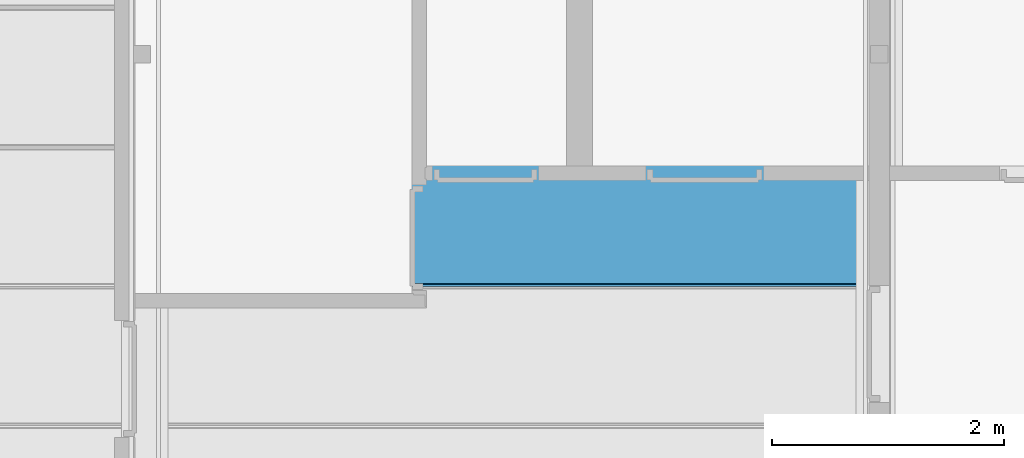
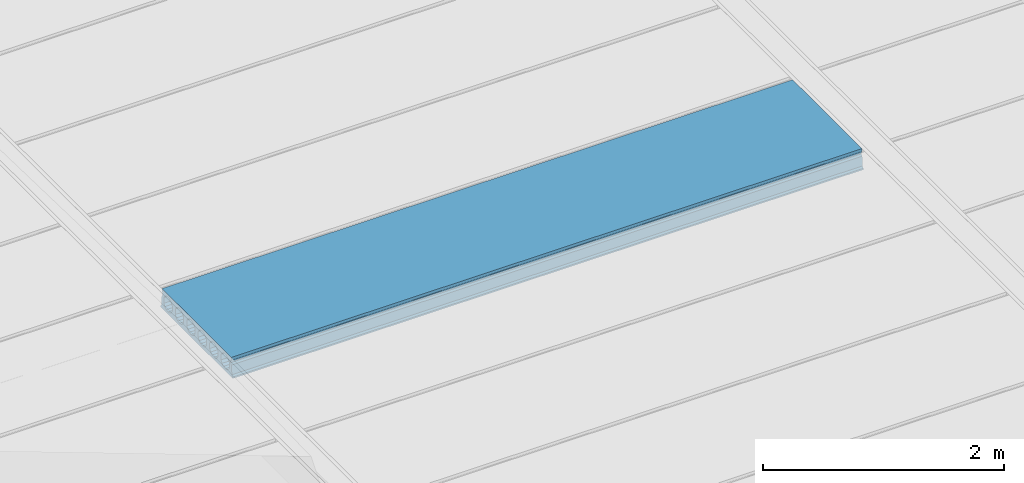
# One storey, part 12 of 45: 1 beam.
"""IFC2X3 building model written with IfcOpenShell, lengths in millimetres."""

from ifc_helpers import new_model, entity, si_unit, converted_unit, frame, origin, place, context, subcontext, project, spatial, faceted_brep, material, element, save


model = new_model("IFC2X3")

# Units and contexts
model_context = context("Model", 3, precision=1e-05, world=origin())
plan_context = context("Plan", 3, precision=1e-05, world=origin())
body_context = subcontext(model_context, "Body", "Model", "MODEL_VIEW")
ifc_project = project(units=[si_unit("LENGTHUNIT", "METRE", prefix="MILLI"), converted_unit("PLANEANGLEUNIT", "DEGREE", entity("IfcPlaneAngleMeasure", 0.0174532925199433), si_unit("PLANEANGLEUNIT", "RADIAN"), dimensions=[0, 0, 0, 0, 0, 0, 0]), si_unit("AREAUNIT", "SQUARE_METRE"), si_unit("VOLUMEUNIT", "CUBIC_METRE")], contexts=[model_context, plan_context])

# Building, storey
building_placement = place(None, origin())
building = spatial("IfcBuilding", under=ifc_project, at=building_placement, Name="HEKF Administrasjonbygg", CompositionType="ELEMENT")
storey_placement = place(building_placement, frame((0.0, 0.0, 6500.0), z_axis=(0.0, 0.0, 1.0), x_axis=(1.0, 0.0, 0.0)))
storey = spatial("IfcBuildingStorey", under=building, at=storey_placement, Name="Plan 1", CompositionType="ELEMENT", Elevation=6500.0)

# Beam
ifc_material = material()
beam_placement = place(storey_placement, frame((0.0, 0.0, -6500.0), z_axis=(0.0, 0.0, 1.0), x_axis=(1.0, 0.0, 0.0)))
element("IfcBeam", 1, at=beam_placement, inside=storey, material=ifc_material, context=body_context, shape_type="Brep", body=[
    faceted_brep([(10135.0, -4799.999999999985, 9684.999999), (10135.0, -4799.999999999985, 9670.0), (16189.99999999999, -4800.0, 9670.000000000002), (16189.99999999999, -4800.0, 9684.999999), (10135.0, -5999.999999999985, 9684.999999), (10135.0, -5999.999999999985, 9670.0), (10135.0, -4799.999999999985, 9670.0), (10135.0, -4799.999999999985, 9684.999999), (10135.0, -4814.99987952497, 9699.999998), (10135.0, -4820.000002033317, 9794.999985), (10135.0, -4835.000003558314, 9809.999985), (10135.0, -4835.000003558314, 9829.999985), (10135.0, -4822.727297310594, 9842.272583), (10135.0, -4824.047732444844, 9870.0), (10135.0, -5975.952372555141, 9870.0), (10135.0, -5977.272729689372, 9842.272735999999), (10135.0, -5965.000000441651, 9829.999985), (10135.0, -5965.000000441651, 9809.999985), (10135.0, -5980.000001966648, 9794.999985), (10135.0, -5984.999999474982, 9699.999998), (10135.0, -5874.999987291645, 9694.999989), (10135.0, -5903.701261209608, 9700.709023), (10135.0, -5928.033020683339, 9716.966995), (10135.0, -5944.290964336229, 9741.298752), (10135.0, -5944.290960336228, 9798.701262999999), (10135.0, -5928.032997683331, 9823.03299), (10135.0, -5903.70124620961, 9839.290955), (10135.0, -5874.999987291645, 9845.0), (10135.0, -5846.298721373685, 9839.290955), (10135.0, -5821.966976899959, 9823.033005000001), (10135.0, -5805.709010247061, 9798.701233), (10135.0, -5805.708980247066, 9741.298767), (10135.0, -5821.966961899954, 9716.966995), (10135.0, -5846.29870537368, 9700.709023), (10135.0, -5684.999967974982, 9694.999989), (10135.0, -5713.701241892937, 9700.709023), (10135.0, -5738.033001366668, 9716.966995), (10135.0, -5754.290945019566, 9741.298752), (10135.0, -5754.290941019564, 9798.701262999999), (10135.0, -5738.032978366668, 9823.03299), (10135.0, -5713.701226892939, 9839.290955), (10135.0, -5684.999967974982, 9845.0), (10135.0, -5656.298702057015, 9839.290955), (10135.0, -5631.966957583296, 9823.033005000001), (10135.0, -5615.708990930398, 9798.701233), (10135.0, -5615.708960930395, 9741.298767), (10135.0, -5631.966942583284, 9716.966995), (10135.0, -5656.298686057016, 9700.709023), (10135.0, -5494.999948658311, 9694.999989), (10135.0, -5523.701222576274, 9700.709023), (10135.0, -5548.032982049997, 9716.966995), (10135.0, -5564.290925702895, 9741.298752), (10135.0, -5564.290921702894, 9798.701262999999), (10135.0, -5548.032959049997, 9823.03299), (10135.0, -5523.701207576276, 9839.290955), (10135.0, -5494.999948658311, 9845.0), (10135.0, -5466.298682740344, 9839.290955), (10135.0, -5441.966938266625, 9823.033005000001), (10135.0, -5425.708971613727, 9798.701233), (10135.0, -5425.708941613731, 9741.298767), (10135.0, -5441.96692326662, 9716.966995), (10135.0, -5466.298666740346, 9700.709023), (10135.0, -5304.99992934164, 9694.999989), (10135.0, -5333.701203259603, 9700.709023), (10135.0, -5358.032962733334, 9716.966995), (10135.0, -5374.290906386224, 9741.298752), (10135.0, -5374.290902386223, 9798.701262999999), (10135.0, -5358.032939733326, 9823.03299), (10135.0, -5333.701188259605, 9839.290955), (10135.0, -5304.99992934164, 9845.0), (10135.0, -5276.29866342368, 9839.290955), (10135.0, -5251.966918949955, 9823.033005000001), (10135.0, -5235.708952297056, 9798.701233), (10135.0, -5235.708922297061, 9741.298767), (10135.0, -5251.96690394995, 9716.966995), (10135.0, -5276.298647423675, 9700.709023), (10135.0, -5114.999910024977, 9694.999989), (10135.0, -5143.701183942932, 9700.709023), (10135.0, -5168.032943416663, 9716.966995), (10135.0, -5184.290887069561, 9741.298752), (10135.0, -5184.29088306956, 9798.701262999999), (10135.0, -5168.032920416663, 9823.03299), (10135.0, -5143.701168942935, 9839.290955), (10135.0, -5114.999910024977, 9845.0), (10135.0, -5086.29864410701, 9839.290955), (10135.0, -5061.966899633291, 9823.033005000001), (10135.0, -5045.708932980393, 9798.701233), (10135.0, -5045.70890298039, 9741.298767), (10135.0, -5061.966884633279, 9716.966995), (10135.0, -5086.298628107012, 9700.709023), (10135.0, -4924.999890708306, 9694.999989), (10135.0, -4953.701164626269, 9700.709023), (10135.0, -4978.032924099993, 9716.966995), (10135.0, -4994.29086775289, 9741.298752), (10135.0, -4994.290863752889, 9798.701262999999), (10135.0, -4978.032901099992, 9823.03299), (10135.0, -4953.701149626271, 9839.290955), (10135.0, -4924.999890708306, 9845.0), (10135.0, -4896.298624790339, 9839.290955), (10135.0, -4871.966880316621, 9823.033005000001), (10135.0, -4855.708913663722, 9798.701233), (10135.0, -4855.708883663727, 9741.298767), (10135.0, -4871.966865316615, 9716.966995), (10135.0, -4896.298608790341, 9700.709023), (16190.0, -6000.0, 9684.999999), (16190.0, -6000.0, 9670.0), (10135.0, -5999.999999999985, 9670.0), (10135.0, -5999.999999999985, 9684.999999), (16189.99999999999, -4800.0, 9684.999999), (16189.99999999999, -4800.0, 9670.000000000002), (16190.0, -6000.0, 9670.0), (16190.0, -6000.0, 9684.999999), (16190.0, -5984.999999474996, 9699.999998), (16190.0, -5980.000001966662, 9794.999985), (16190.0, -5965.000000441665, 9809.999985), (16190.0, -5965.000000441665, 9829.999985), (16190.0, -5977.272729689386, 9842.272735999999), (16190.0, -5975.952372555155, 9870.0), (16190.0, -4824.047732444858, 9870.0), (16190.0, -4822.727297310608, 9842.272583), (16190.0, -4835.000003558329, 9829.999985), (16190.0, -4835.000003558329, 9809.999985), (16190.0, -4820.000002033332, 9794.999985), (16190.0, -4814.999879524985, 9699.999998), (16190.0, -4924.999890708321, 9694.999989), (16190.0, -4896.298608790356, 9700.709023), (16190.0, -4871.96686531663, 9716.966995), (16190.0, -4855.708883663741, 9741.298767), (16190.0, -4855.708913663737, 9798.701233), (16190.0, -4871.966880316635, 9823.033005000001), (16190.0, -4896.298624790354, 9839.290955), (16190.0, -4924.999890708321, 9845.0), (16190.0, -4953.701149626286, 9839.290955), (16190.0, -4978.032901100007, 9823.03299), (16190.0, -4994.290863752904, 9798.701262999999), (16190.0, -4994.290867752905, 9741.298752), (16190.0, -4978.032924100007, 9716.966995), (16190.0, -4953.701164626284, 9700.709023), (16190.0, -5114.999910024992, 9694.999989), (16190.0, -5086.298628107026, 9700.709023), (16190.0, -5061.966884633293, 9716.966995), (16190.0, -5045.708902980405, 9741.298767), (16190.0, -5045.708932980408, 9798.701233), (16190.0, -5061.966899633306, 9823.033005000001), (16190.0, -5086.298644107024, 9839.290955), (16190.0, -5114.999910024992, 9845.0), (16190.0, -5143.701168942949, 9839.290955), (16190.0, -5168.032920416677, 9823.03299), (16190.0, -5184.290883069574, 9798.701262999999), (16190.0, -5184.290887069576, 9741.298752), (16190.0, -5168.032943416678, 9716.966995), (16190.0, -5143.701183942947, 9700.709023), (16190.0, -5304.999929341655, 9694.999989), (16190.0, -5276.29864742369, 9700.709023), (16190.0, -5251.966903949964, 9716.966995), (16190.0, -5235.708922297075, 9741.298767), (16190.0, -5235.708952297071, 9798.701233), (16190.0, -5251.966918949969, 9823.033005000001), (16190.0, -5276.298663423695, 9839.290955), (16190.0, -5304.999929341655, 9845.0), (16190.0, -5333.70118825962, 9839.290955), (16190.0, -5358.032939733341, 9823.03299), (16190.0, -5374.290902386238, 9798.701262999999), (16190.0, -5374.290906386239, 9741.298752), (16190.0, -5358.032962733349, 9716.966995), (16190.0, -5333.701203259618, 9700.709023), (16190.0, -5494.999948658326, 9694.999989), (16190.0, -5466.29866674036, 9700.709023), (16190.0, -5441.966923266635, 9716.966995), (16190.0, -5425.708941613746, 9741.298767), (16190.0, -5425.708971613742, 9798.701233), (16190.0, -5441.96693826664, 9823.033005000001), (16190.0, -5466.298682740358, 9839.290955), (16190.0, -5494.999948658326, 9845.0), (16190.0, -5523.701207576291, 9839.290955), (16190.0, -5548.032959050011, 9823.03299), (16190.0, -5564.290921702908, 9798.701262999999), (16190.0, -5564.29092570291, 9741.298752), (16190.0, -5548.032982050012, 9716.966995), (16190.0, -5523.701222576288, 9700.709023), (16190.0, -5684.999967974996, 9694.999989), (16190.0, -5656.298686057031, 9700.709023), (16190.0, -5631.966942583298, 9716.966995), (16190.0, -5615.708960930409, 9741.298767), (16190.0, -5615.708990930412, 9798.701233), (16190.0, -5631.96695758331, 9823.033005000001), (16190.0, -5656.298702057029, 9839.290955), (16190.0, -5684.999967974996, 9845.0), (16190.0, -5713.701226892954, 9839.290955), (16190.0, -5738.032978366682, 9823.03299), (16190.0, -5754.290941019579, 9798.701262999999), (16190.0, -5754.29094501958, 9741.298752), (16190.0, -5738.033001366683, 9716.966995), (16190.0, -5713.701241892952, 9700.709023), (16190.0, -5874.99998729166, 9694.999989), (16190.0, -5846.298705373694, 9700.709023), (16190.0, -5821.966961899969, 9716.966995), (16190.0, -5805.70898024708, 9741.298767), (16190.0, -5805.709010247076, 9798.701233), (16190.0, -5821.966976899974, 9823.033005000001), (16190.0, -5846.2987213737, 9839.290955), (16190.0, -5874.99998729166, 9845.0), (16190.0, -5903.701246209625, 9839.290955), (16190.0, -5928.032997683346, 9823.03299), (16190.0, -5944.290960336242, 9798.701262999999), (16190.0, -5944.290964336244, 9741.298752), (16190.0, -5928.033020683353, 9716.966995), (16190.0, -5903.701261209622, 9700.709023), (10135.0, -5999.999999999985, 9684.999999), (10135.0, -5984.999999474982, 9699.999998), (16190.0, -5984.999999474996, 9699.999998), (16190.0, -6000.0, 9684.999999), (10135.0, -5984.999999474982, 9699.999998), (10135.0, -5980.000001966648, 9794.999985), (16190.0, -5980.000001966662, 9794.999985), (16190.0, -5984.999999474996, 9699.999998), (10135.0, -5980.000001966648, 9794.999985), (10135.0, -5965.000000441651, 9809.999985), (16190.0, -5965.000000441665, 9809.999985), (16190.0, -5980.000001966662, 9794.999985), (10135.0, -5965.000000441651, 9809.999985), (10135.0, -5965.000000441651, 9829.999985), (16190.0, -5965.000000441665, 9829.999985), (16190.0, -5965.000000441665, 9809.999985), (10135.0, -5965.000000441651, 9829.999985), (10135.0, -5977.272729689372, 9842.272735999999), (16190.0, -5977.272729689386, 9842.272735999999), (16190.0, -5965.000000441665, 9829.999985), (10135.0, -5977.272729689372, 9842.272735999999), (10135.0, -5975.952372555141, 9870.0), (16190.0, -5975.952372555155, 9870.0), (16190.0, -5977.272729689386, 9842.272735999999), (10135.0, -5975.952372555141, 9870.0), (10135.0, -4824.047732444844, 9870.0), (16190.0, -4824.047732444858, 9870.0), (16190.0, -5975.952372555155, 9870.0), (10135.0, -4824.047732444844, 9870.0), (10135.0, -4822.727297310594, 9842.272583), (16190.0, -4822.727297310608, 9842.272583), (16190.0, -4824.047732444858, 9870.0), (10135.0, -4822.727297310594, 9842.272583), (10135.0, -4835.000003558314, 9829.999985), (16190.0, -4835.000003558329, 9829.999985), (16190.0, -4822.727297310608, 9842.272583), (10135.0, -4835.000003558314, 9829.999985), (10135.0, -4835.000003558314, 9809.999985), (16190.0, -4835.000003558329, 9809.999985), (16190.0, -4835.000003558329, 9829.999985), (10135.0, -4835.000003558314, 9809.999985), (10135.0, -4820.000002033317, 9794.999985), (16190.0, -4820.000002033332, 9794.999985), (16190.0, -4835.000003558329, 9809.999985), (10135.0, -4820.000002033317, 9794.999985), (10135.0, -4814.99987952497, 9699.999998), (16190.0, -4814.999879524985, 9699.999998), (16190.0, -4820.000002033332, 9794.999985), (10135.0, -4814.99987952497, 9699.999998), (10135.0, -4799.999999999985, 9684.999999), (16189.99999999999, -4800.0, 9684.999999), (16190.0, -4814.999879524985, 9699.999998), (10135.0, -4799.999999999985, 9670.0), (10135.0, -5999.999999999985, 9670.0), (16190.0, -6000.0, 9670.0), (16189.99999999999, -4800.0, 9670.000000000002), (10135.0, -4924.999890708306, 9694.999989), (10135.0, -4896.298608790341, 9700.709023), (16190.0, -4896.298608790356, 9700.709023), (16190.0, -4924.999890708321, 9694.999989), (10135.0, -4896.298608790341, 9700.709023), (10135.0, -4871.966865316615, 9716.966995), (16190.0, -4871.96686531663, 9716.966995), (16190.0, -4896.298608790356, 9700.709023), (10135.0, -4871.966865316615, 9716.966995), (10135.0, -4855.708883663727, 9741.298767), (16190.0, -4855.708883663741, 9741.298767), (16190.0, -4871.96686531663, 9716.966995), (10135.0, -4855.708883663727, 9741.298767), (10135.0, -4855.708913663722, 9798.701233), (16190.0, -4855.708913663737, 9798.701233), (16190.0, -4855.708883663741, 9741.298767), (10135.0, -4855.708913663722, 9798.701233), (10135.0, -4871.966880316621, 9823.033005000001), (16190.0, -4871.966880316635, 9823.033005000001), (16190.0, -4855.708913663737, 9798.701233), (10135.0, -4871.966880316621, 9823.033005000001), (10135.0, -4896.298624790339, 9839.290955), (16190.0, -4896.298624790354, 9839.290955), (16190.0, -4871.966880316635, 9823.033005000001), (10135.0, -4896.298624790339, 9839.290955), (10135.0, -4924.999890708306, 9845.0), (16190.0, -4924.999890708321, 9845.0), (16190.0, -4896.298624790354, 9839.290955), (10135.0, -4924.999890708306, 9845.0), (10135.0, -4953.701149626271, 9839.290955), (16190.0, -4953.701149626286, 9839.290955), (16190.0, -4924.999890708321, 9845.0), (10135.0, -4953.701149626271, 9839.290955), (10135.0, -4978.032901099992, 9823.03299), (16190.0, -4978.032901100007, 9823.03299), (16190.0, -4953.701149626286, 9839.290955), (10135.0, -4978.032901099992, 9823.03299), (10135.0, -4994.290863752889, 9798.701262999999), (16190.0, -4994.290863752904, 9798.701262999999), (16190.0, -4978.032901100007, 9823.03299), (10135.0, -4994.290863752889, 9798.701262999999), (10135.0, -4994.29086775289, 9741.298752), (16190.0, -4994.290867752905, 9741.298752), (16190.0, -4994.290863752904, 9798.701262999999), (10135.0, -4994.29086775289, 9741.298752), (10135.0, -4978.032924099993, 9716.966995), (16190.0, -4978.032924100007, 9716.966995), (16190.0, -4994.290867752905, 9741.298752), (10135.0, -4978.032924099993, 9716.966995), (10135.0, -4953.701164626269, 9700.709023), (16190.0, -4953.701164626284, 9700.709023), (16190.0, -4978.032924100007, 9716.966995), (10135.0, -4953.701164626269, 9700.709023), (10135.0, -4924.999890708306, 9694.999989), (16190.0, -4924.999890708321, 9694.999989), (16190.0, -4953.701164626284, 9700.709023), (10135.0, -5114.999910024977, 9694.999989), (10135.0, -5086.298628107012, 9700.709023), (16190.0, -5086.298628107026, 9700.709023), (16190.0, -5114.999910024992, 9694.999989), (10135.0, -5086.298628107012, 9700.709023), (10135.0, -5061.966884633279, 9716.966995), (16190.0, -5061.966884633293, 9716.966995), (16190.0, -5086.298628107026, 9700.709023), (10135.0, -5061.966884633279, 9716.966995), (10135.0, -5045.70890298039, 9741.298767), (16190.0, -5045.708902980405, 9741.298767), (16190.0, -5061.966884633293, 9716.966995), (10135.0, -5045.70890298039, 9741.298767), (10135.0, -5045.708932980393, 9798.701233), (16190.0, -5045.708932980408, 9798.701233), (16190.0, -5045.708902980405, 9741.298767), (10135.0, -5045.708932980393, 9798.701233), (10135.0, -5061.966899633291, 9823.033005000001), (16190.0, -5061.966899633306, 9823.033005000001), (16190.0, -5045.708932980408, 9798.701233), (10135.0, -5061.966899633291, 9823.033005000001), (10135.0, -5086.29864410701, 9839.290955), (16190.0, -5086.298644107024, 9839.290955), (16190.0, -5061.966899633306, 9823.033005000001), (10135.0, -5086.29864410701, 9839.290955), (10135.0, -5114.999910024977, 9845.0), (16190.0, -5114.999910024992, 9845.0), (16190.0, -5086.298644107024, 9839.290955), (10135.0, -5114.999910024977, 9845.0), (10135.0, -5143.701168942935, 9839.290955), (16190.0, -5143.701168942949, 9839.290955), (16190.0, -5114.999910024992, 9845.0), (10135.0, -5143.701168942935, 9839.290955), (10135.0, -5168.032920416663, 9823.03299), (16190.0, -5168.032920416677, 9823.03299), (16190.0, -5143.701168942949, 9839.290955), (10135.0, -5168.032920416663, 9823.03299), (10135.0, -5184.29088306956, 9798.701262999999), (16190.0, -5184.290883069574, 9798.701262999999), (16190.0, -5168.032920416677, 9823.03299), (10135.0, -5184.29088306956, 9798.701262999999), (10135.0, -5184.290887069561, 9741.298752), (16190.0, -5184.290887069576, 9741.298752), (16190.0, -5184.290883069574, 9798.701262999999), (10135.0, -5184.290887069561, 9741.298752), (10135.0, -5168.032943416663, 9716.966995), (16190.0, -5168.032943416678, 9716.966995), (16190.0, -5184.290887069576, 9741.298752), (10135.0, -5168.032943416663, 9716.966995), (10135.0, -5143.701183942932, 9700.709023), (16190.0, -5143.701183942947, 9700.709023), (16190.0, -5168.032943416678, 9716.966995), (10135.0, -5143.701183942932, 9700.709023), (10135.0, -5114.999910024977, 9694.999989), (16190.0, -5114.999910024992, 9694.999989), (16190.0, -5143.701183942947, 9700.709023), (10135.0, -5304.99992934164, 9694.999989), (10135.0, -5276.298647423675, 9700.709023), (16190.0, -5276.29864742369, 9700.709023), (16190.0, -5304.999929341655, 9694.999989), (10135.0, -5276.298647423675, 9700.709023), (10135.0, -5251.96690394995, 9716.966995), (16190.0, -5251.966903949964, 9716.966995), (16190.0, -5276.29864742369, 9700.709023), (10135.0, -5251.96690394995, 9716.966995), (10135.0, -5235.708922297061, 9741.298767), (16190.0, -5235.708922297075, 9741.298767), (16190.0, -5251.966903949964, 9716.966995), (10135.0, -5235.708922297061, 9741.298767), (10135.0, -5235.708952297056, 9798.701233), (16190.0, -5235.708952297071, 9798.701233), (16190.0, -5235.708922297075, 9741.298767), (10135.0, -5235.708952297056, 9798.701233), (10135.0, -5251.966918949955, 9823.033005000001), (16190.0, -5251.966918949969, 9823.033005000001), (16190.0, -5235.708952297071, 9798.701233), (10135.0, -5251.966918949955, 9823.033005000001), (10135.0, -5276.29866342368, 9839.290955), (16190.0, -5276.298663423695, 9839.290955), (16190.0, -5251.966918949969, 9823.033005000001), (10135.0, -5276.29866342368, 9839.290955), (10135.0, -5304.99992934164, 9845.0), (16190.0, -5304.999929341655, 9845.0), (16190.0, -5276.298663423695, 9839.290955), (10135.0, -5304.99992934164, 9845.0), (10135.0, -5333.701188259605, 9839.290955), (16190.0, -5333.70118825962, 9839.290955), (16190.0, -5304.999929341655, 9845.0), (10135.0, -5333.701188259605, 9839.290955), (10135.0, -5358.032939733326, 9823.03299), (16190.0, -5358.032939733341, 9823.03299), (16190.0, -5333.70118825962, 9839.290955), (10135.0, -5358.032939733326, 9823.03299), (10135.0, -5374.290902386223, 9798.701262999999), (16190.0, -5374.290902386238, 9798.701262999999), (16190.0, -5358.032939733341, 9823.03299), (10135.0, -5374.290902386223, 9798.701262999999), (10135.0, -5374.290906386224, 9741.298752), (16190.0, -5374.290906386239, 9741.298752), (16190.0, -5374.290902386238, 9798.701262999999), (10135.0, -5374.290906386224, 9741.298752), (10135.0, -5358.032962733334, 9716.966995), (16190.0, -5358.032962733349, 9716.966995), (16190.0, -5374.290906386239, 9741.298752), (10135.0, -5358.032962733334, 9716.966995), (10135.0, -5333.701203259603, 9700.709023), (16190.0, -5333.701203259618, 9700.709023), (16190.0, -5358.032962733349, 9716.966995), (10135.0, -5333.701203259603, 9700.709023), (10135.0, -5304.99992934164, 9694.999989), (16190.0, -5304.999929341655, 9694.999989), (16190.0, -5333.701203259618, 9700.709023), (10135.0, -5494.999948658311, 9694.999989), (10135.0, -5466.298666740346, 9700.709023), (16190.0, -5466.29866674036, 9700.709023), (16190.0, -5494.999948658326, 9694.999989), (10135.0, -5466.298666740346, 9700.709023), (10135.0, -5441.96692326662, 9716.966995), (16190.0, -5441.966923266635, 9716.966995), (16190.0, -5466.29866674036, 9700.709023), (10135.0, -5441.96692326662, 9716.966995), (10135.0, -5425.708941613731, 9741.298767), (16190.0, -5425.708941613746, 9741.298767), (16190.0, -5441.966923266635, 9716.966995), (10135.0, -5425.708941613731, 9741.298767), (10135.0, -5425.708971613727, 9798.701233), (16190.0, -5425.708971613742, 9798.701233), (16190.0, -5425.708941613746, 9741.298767), (10135.0, -5425.708971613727, 9798.701233), (10135.0, -5441.966938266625, 9823.033005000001), (16190.0, -5441.96693826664, 9823.033005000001), (16190.0, -5425.708971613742, 9798.701233), (10135.0, -5441.966938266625, 9823.033005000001), (10135.0, -5466.298682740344, 9839.290955), (16190.0, -5466.298682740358, 9839.290955), (16190.0, -5441.96693826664, 9823.033005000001), (10135.0, -5466.298682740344, 9839.290955), (10135.0, -5494.999948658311, 9845.0), (16190.0, -5494.999948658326, 9845.0), (16190.0, -5466.298682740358, 9839.290955), (10135.0, -5494.999948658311, 9845.0), (10135.0, -5523.701207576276, 9839.290955), (16190.0, -5523.701207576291, 9839.290955), (16190.0, -5494.999948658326, 9845.0), (10135.0, -5523.701207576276, 9839.290955), (10135.0, -5548.032959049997, 9823.03299), (16190.0, -5548.032959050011, 9823.03299), (16190.0, -5523.701207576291, 9839.290955), (10135.0, -5548.032959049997, 9823.03299), (10135.0, -5564.290921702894, 9798.701262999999), (16190.0, -5564.290921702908, 9798.701262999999), (16190.0, -5548.032959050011, 9823.03299), (10135.0, -5564.290921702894, 9798.701262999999), (10135.0, -5564.290925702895, 9741.298752), (16190.0, -5564.29092570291, 9741.298752), (16190.0, -5564.290921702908, 9798.701262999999), (10135.0, -5564.290925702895, 9741.298752), (10135.0, -5548.032982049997, 9716.966995), (16190.0, -5548.032982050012, 9716.966995), (16190.0, -5564.29092570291, 9741.298752), (10135.0, -5548.032982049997, 9716.966995), (10135.0, -5523.701222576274, 9700.709023), (16190.0, -5523.701222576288, 9700.709023), (16190.0, -5548.032982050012, 9716.966995), (10135.0, -5523.701222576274, 9700.709023), (10135.0, -5494.999948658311, 9694.999989), (16190.0, -5494.999948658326, 9694.999989), (16190.0, -5523.701222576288, 9700.709023), (10135.0, -5684.999967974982, 9694.999989), (10135.0, -5656.298686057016, 9700.709023), (16190.0, -5656.298686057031, 9700.709023), (16190.0, -5684.999967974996, 9694.999989), (10135.0, -5656.298686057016, 9700.709023), (10135.0, -5631.966942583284, 9716.966995), (16190.0, -5631.966942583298, 9716.966995), (16190.0, -5656.298686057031, 9700.709023), (10135.0, -5631.966942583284, 9716.966995), (10135.0, -5615.708960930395, 9741.298767), (16190.0, -5615.708960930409, 9741.298767), (16190.0, -5631.966942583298, 9716.966995), (10135.0, -5615.708960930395, 9741.298767), (10135.0, -5615.708990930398, 9798.701233), (16190.0, -5615.708990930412, 9798.701233), (16190.0, -5615.708960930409, 9741.298767), (10135.0, -5615.708990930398, 9798.701233), (10135.0, -5631.966957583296, 9823.033005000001), (16190.0, -5631.96695758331, 9823.033005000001), (16190.0, -5615.708990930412, 9798.701233), (10135.0, -5631.966957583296, 9823.033005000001), (10135.0, -5656.298702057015, 9839.290955), (16190.0, -5656.298702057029, 9839.290955), (16190.0, -5631.96695758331, 9823.033005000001), (10135.0, -5656.298702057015, 9839.290955), (10135.0, -5684.999967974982, 9845.0), (16190.0, -5684.999967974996, 9845.0), (16190.0, -5656.298702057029, 9839.290955), (10135.0, -5684.999967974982, 9845.0), (10135.0, -5713.701226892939, 9839.290955), (16190.0, -5713.701226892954, 9839.290955), (16190.0, -5684.999967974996, 9845.0), (10135.0, -5713.701226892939, 9839.290955), (10135.0, -5738.032978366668, 9823.03299), (16190.0, -5738.032978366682, 9823.03299), (16190.0, -5713.701226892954, 9839.290955), (10135.0, -5738.032978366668, 9823.03299), (10135.0, -5754.290941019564, 9798.701262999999), (16190.0, -5754.290941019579, 9798.701262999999), (16190.0, -5738.032978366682, 9823.03299), (10135.0, -5754.290941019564, 9798.701262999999), (10135.0, -5754.290945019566, 9741.298752), (16190.0, -5754.29094501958, 9741.298752), (16190.0, -5754.290941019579, 9798.701262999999), (10135.0, -5754.290945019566, 9741.298752), (10135.0, -5738.033001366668, 9716.966995), (16190.0, -5738.033001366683, 9716.966995), (16190.0, -5754.29094501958, 9741.298752), (10135.0, -5738.033001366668, 9716.966995), (10135.0, -5713.701241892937, 9700.709023), (16190.0, -5713.701241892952, 9700.709023), (16190.0, -5738.033001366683, 9716.966995), (10135.0, -5713.701241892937, 9700.709023), (10135.0, -5684.999967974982, 9694.999989), (16190.0, -5684.999967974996, 9694.999989), (16190.0, -5713.701241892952, 9700.709023), (10135.0, -5874.999987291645, 9694.999989), (10135.0, -5846.29870537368, 9700.709023), (16190.0, -5846.298705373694, 9700.709023), (16190.0, -5874.99998729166, 9694.999989), (10135.0, -5846.29870537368, 9700.709023), (10135.0, -5821.966961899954, 9716.966995), (16190.0, -5821.966961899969, 9716.966995), (16190.0, -5846.298705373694, 9700.709023), (10135.0, -5821.966961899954, 9716.966995), (10135.0, -5805.708980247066, 9741.298767), (16190.0, -5805.70898024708, 9741.298767), (16190.0, -5821.966961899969, 9716.966995), (10135.0, -5805.708980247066, 9741.298767), (10135.0, -5805.709010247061, 9798.701233), (16190.0, -5805.709010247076, 9798.701233), (16190.0, -5805.70898024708, 9741.298767), (10135.0, -5805.709010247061, 9798.701233), (10135.0, -5821.966976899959, 9823.033005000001), (16190.0, -5821.966976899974, 9823.033005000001), (16190.0, -5805.709010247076, 9798.701233), (10135.0, -5821.966976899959, 9823.033005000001), (10135.0, -5846.298721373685, 9839.290955), (16190.0, -5846.2987213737, 9839.290955), (16190.0, -5821.966976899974, 9823.033005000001), (10135.0, -5846.298721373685, 9839.290955), (10135.0, -5874.999987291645, 9845.0), (16190.0, -5874.99998729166, 9845.0), (16190.0, -5846.2987213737, 9839.290955), (10135.0, -5874.999987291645, 9845.0), (10135.0, -5903.70124620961, 9839.290955), (16190.0, -5903.701246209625, 9839.290955), (16190.0, -5874.99998729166, 9845.0), (10135.0, -5903.70124620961, 9839.290955), (10135.0, -5928.032997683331, 9823.03299), (16190.0, -5928.032997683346, 9823.03299), (16190.0, -5903.701246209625, 9839.290955), (10135.0, -5928.032997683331, 9823.03299), (10135.0, -5944.290960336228, 9798.701262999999), (16190.0, -5944.290960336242, 9798.701262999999), (16190.0, -5928.032997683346, 9823.03299), (10135.0, -5944.290960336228, 9798.701262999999), (10135.0, -5944.290964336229, 9741.298752), (16190.0, -5944.290964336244, 9741.298752), (16190.0, -5944.290960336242, 9798.701262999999), (10135.0, -5944.290964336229, 9741.298752), (10135.0, -5928.033020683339, 9716.966995), (16190.0, -5928.033020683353, 9716.966995), (16190.0, -5944.290964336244, 9741.298752), (10135.0, -5928.033020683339, 9716.966995), (10135.0, -5903.701261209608, 9700.709023), (16190.0, -5903.701261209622, 9700.709023), (16190.0, -5928.033020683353, 9716.966995), (10135.0, -5903.701261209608, 9700.709023), (10135.0, -5874.999987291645, 9694.999989), (16190.0, -5874.99998729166, 9694.999989), (16190.0, -5903.701261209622, 9700.709023)], [[[0, 1, 2, 3]], [[4, 5, 6, 7, 8, 9, 10, 11, 12, 13, 14, 15, 16, 17, 18, 19], [20, 21, 22, 23, 24, 25, 26, 27, 28, 29, 30, 31, 32, 33], [34, 35, 36, 37, 38, 39, 40, 41, 42, 43, 44, 45, 46, 47], [48, 49, 50, 51, 52, 53, 54, 55, 56, 57, 58, 59, 60, 61], [62, 63, 64, 65, 66, 67, 68, 69, 70, 71, 72, 73, 74, 75], [76, 77, 78, 79, 80, 81, 82, 83, 84, 85, 86, 87, 88, 89], [90, 91, 92, 93, 94, 95, 96, 97, 98, 99, 100, 101, 102, 103]], [[104, 105, 106, 107]], [[108, 109, 110, 111, 112, 113, 114, 115, 116, 117, 118, 119, 120, 121, 122, 123], [124, 125, 126, 127, 128, 129, 130, 131, 132, 133, 134, 135, 136, 137], [138, 139, 140, 141, 142, 143, 144, 145, 146, 147, 148, 149, 150, 151], [152, 153, 154, 155, 156, 157, 158, 159, 160, 161, 162, 163, 164, 165], [166, 167, 168, 169, 170, 171, 172, 173, 174, 175, 176, 177, 178, 179], [180, 181, 182, 183, 184, 185, 186, 187, 188, 189, 190, 191, 192, 193], [194, 195, 196, 197, 198, 199, 200, 201, 202, 203, 204, 205, 206, 207]], [[208, 209, 210, 211]], [[212, 213, 214, 215]], [[216, 217, 218, 219]], [[220, 221, 222, 223]], [[224, 225, 226, 227]], [[228, 229, 230, 231]], [[232, 233, 234, 235]], [[236, 237, 238, 239]], [[240, 241, 242, 243]], [[244, 245, 246, 247]], [[248, 249, 250, 251]], [[252, 253, 254, 255]], [[256, 257, 258, 259]], [[260, 261, 262, 263]], [[264, 265, 266, 267]], [[268, 269, 270, 271]], [[272, 273, 274, 275]], [[276, 277, 278, 279]], [[280, 281, 282, 283]], [[284, 285, 286, 287]], [[288, 289, 290, 291]], [[292, 293, 294, 295]], [[296, 297, 298, 299]], [[300, 301, 302, 303]], [[304, 305, 306, 307]], [[308, 309, 310, 311]], [[312, 313, 314, 315]], [[316, 317, 318, 319]], [[320, 321, 322, 323]], [[324, 325, 326, 327]], [[328, 329, 330, 331]], [[332, 333, 334, 335]], [[336, 337, 338, 339]], [[340, 341, 342, 343]], [[344, 345, 346, 347]], [[348, 349, 350, 351]], [[352, 353, 354, 355]], [[356, 357, 358, 359]], [[360, 361, 362, 363]], [[364, 365, 366, 367]], [[368, 369, 370, 371]], [[372, 373, 374, 375]], [[376, 377, 378, 379]], [[380, 381, 382, 383]], [[384, 385, 386, 387]], [[388, 389, 390, 391]], [[392, 393, 394, 395]], [[396, 397, 398, 399]], [[400, 401, 402, 403]], [[404, 405, 406, 407]], [[408, 409, 410, 411]], [[412, 413, 414, 415]], [[416, 417, 418, 419]], [[420, 421, 422, 423]], [[424, 425, 426, 427]], [[428, 429, 430, 431]], [[432, 433, 434, 435]], [[436, 437, 438, 439]], [[440, 441, 442, 443]], [[444, 445, 446, 447]], [[448, 449, 450, 451]], [[452, 453, 454, 455]], [[456, 457, 458, 459]], [[460, 461, 462, 463]], [[464, 465, 466, 467]], [[468, 469, 470, 471]], [[472, 473, 474, 475]], [[476, 477, 478, 479]], [[480, 481, 482, 483]], [[484, 485, 486, 487]], [[488, 489, 490, 491]], [[492, 493, 494, 495]], [[496, 497, 498, 499]], [[500, 501, 502, 503]], [[504, 505, 506, 507]], [[508, 509, 510, 511]], [[512, 513, 514, 515]], [[516, 517, 518, 519]], [[520, 521, 522, 523]], [[524, 525, 526, 527]], [[528, 529, 530, 531]], [[532, 533, 534, 535]], [[536, 537, 538, 539]], [[540, 541, 542, 543]], [[544, 545, 546, 547]], [[548, 549, 550, 551]], [[552, 553, 554, 555]], [[556, 557, 558, 559]], [[560, 561, 562, 563]], [[564, 565, 566, 567]], [[568, 569, 570, 571]], [[572, 573, 574, 575]], [[576, 577, 578, 579]], [[580, 581, 582, 583]], [[584, 585, 586, 587]], [[588, 589, 590, 591]], [[592, 593, 594, 595]], [[596, 597, 598, 599]]], orient=[[False], [False, False, False, False, False, False, False], [False], [False, False, False, False, False, False, False], [False], [False], [False], [False], [False], [False], [False], [False], [False], [False], [False], [False], [False], [False], [False], [False], [False], [False], [False], [False], [False], [False], [False], [False], [False], [False], [False], [False], [False], [False], [False], [False], [False], [False], [False], [False], [False], [False], [False], [False], [False], [False], [False], [False], [False], [False], [False], [False], [False], [False], [False], [False], [False], [False], [False], [False], [False], [False], [False], [False], [False], [False], [False], [False], [False], [False], [False], [False], [False], [False], [False], [False], [False], [False], [False], [False], [False], [False], [False], [False], [False], [False], [False], [False], [False], [False], [False], [False], [False], [False], [False], [False], [False], [False], [False], [False], [False], [False]]),
])

save(model, "model.ifc")
